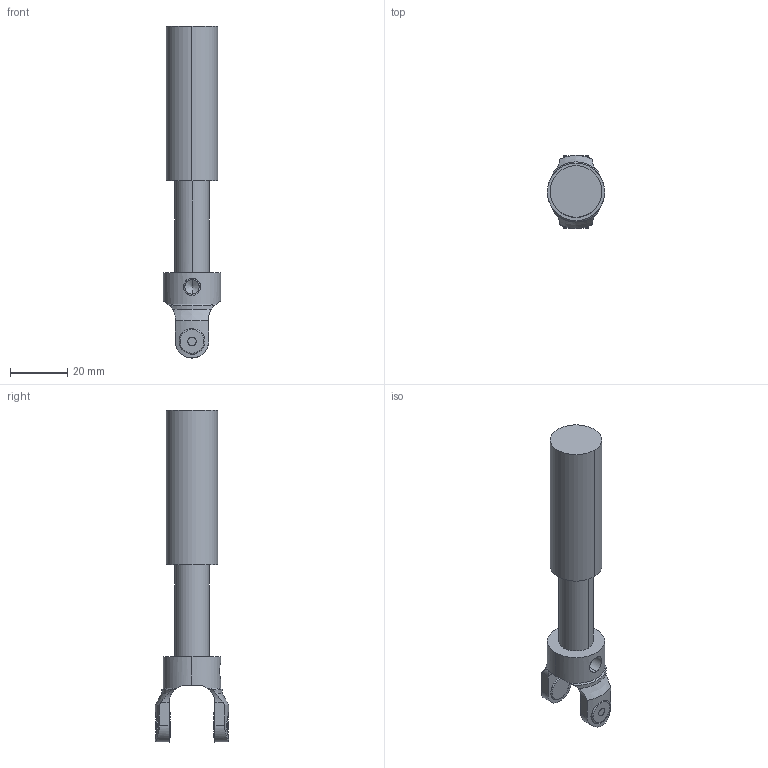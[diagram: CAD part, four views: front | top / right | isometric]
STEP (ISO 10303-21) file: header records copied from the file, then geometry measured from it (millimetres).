
FILE_DESCRIPTION (( 'STEP AP214' ), '1' );
FILE_NAME ('IRB360_X-1130-WDS-4D_rev03_U_CAD.STEP', '2023-12-04T10:19:07', ( '' ), ( '' ), 'SwSTEP 2.0', 'SolidWorks 2022', '' );
FILE_SCHEMA (( 'AUTOMOTIVE_DESIGN' ));
Length unit declared in the file: millimetre
Products named in the file (1): IRB360_X-1130-WDS-4D_rev03_U_CAD
Bounding box: 20 x 25.5 x 115.8 mm (x, y, z)
Volume: 21948 mm3; surface area: 8401.2 mm2
Topology: 4 solids, 4 shells, 80 faces, 192 edges, 119 vertices
Faces by surface type: cylinder 38, plane 18, torus 16, cone 8
Entity records: 3013 total; most frequent: CARTESIAN_POINT 1110, DIRECTION 388, ORIENTED_EDGE 380, EDGE_CURVE 190, AXIS2_PLACEMENT_3D 167, VERTEX_POINT 119, EDGE_LOOP 91, CIRCLE 86
